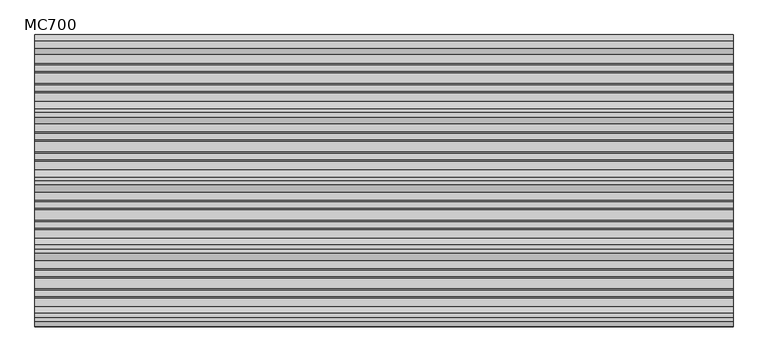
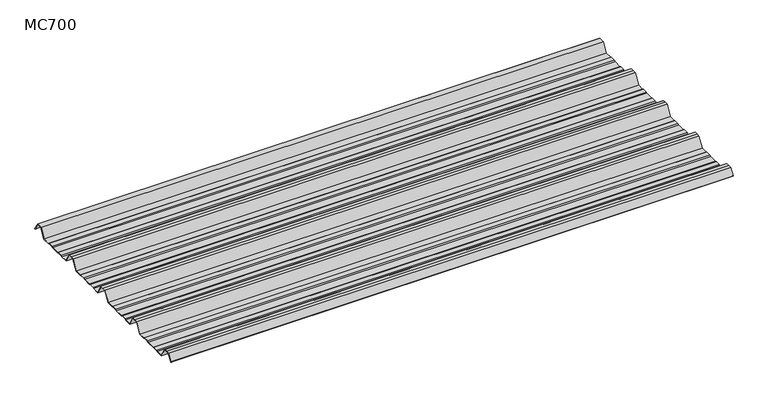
"""IFC4 building model written with IfcOpenShell, lengths in millimetres: beam geometry, 3D_Metalcraft MC700 : MC700."""

from ifc_helpers import new_model, si_unit, point, frame, frame_2d, origin, place, context, project, spatial, polyline, circle_curve, trimmed, segment, composite_curve, outline, extrude, source, transform, mapped, element, save


def mc700_c5d29af6(model_context):
    return source(origin(), model_context, "Body", "SweptSolid", [
        extrude(outline(composite_curve([segment(polyline([(-279.7790109, -25.7896475), (-284.1593286, -23.7494212), (-300.5873198, -23.7494212), (-303.802364, -25.7896475), (-326.5000016, -25.7896475), (-344.5745116, 5.2103525), (-355.0, 5.2103525), (-365.4254884, 5.2103525), (-383.4999984, -25.7896475), (-406.197636, -25.7896475), (-409.4126802, -23.7494212), (-425.8406714, -23.7494212), (-430.2209891, -25.7896475), (-457.2790109, -25.7896475), (-461.6593286, -23.7494212), (-478.0873198, -23.7494212), (-481.302364, -25.7896475), (-504.0000016, -25.7896475), (-522.0745116, 5.2103525), (-532.5, 5.2103525), (-542.9254884, 5.2103525), (-560.9999984, -25.7896475), (-583.697636, -25.7896475), (-586.9126802, -23.7494212), (-603.3406714, -23.7494212), (-607.7209891, -25.7896475), (-634.7790109, -25.7896475), (-639.1593286, -23.7494212), (-655.5873198, -23.7494212), (-658.802364, -25.7896475), (-681.5000016, -25.7896475), (-699.5745116, 5.2103525), (-710.0, 5.2103525), (-720.4254884, 5.2103525), (-732.728303, -15.8904825)]), True, "CONTINUOUS"), segment(trimmed(circle_curve(frame_2d((-733.160246, -15.6386387)), 0.5), [point((-732.728303, -15.8904825))], [point((-733.5921889, -15.3867949))], False, "CARTESIAN"), True, "CONTINUOUS"), segment(polyline([(-733.5921889, -15.3867949), (-721.0, 6.2103525), (-710.0, 6.2103525), (-699.0, 6.2103525), (-680.92549, -24.7896475), (-659.0928785, -24.7896475), (-655.8778343, -22.7494212), (-638.9378651, -22.7494212), (-634.5575473, -24.7896475), (-607.9424527, -24.7896475), (-603.5621349, -22.7494212), (-586.6221657, -22.7494212), (-583.4071215, -24.7896475), (-561.57451, -24.7896475), (-543.5, 6.2103525), (-532.5, 6.2103525), (-521.5, 6.2103525), (-503.42549, -24.7896475), (-481.5928785, -24.7896475), (-478.3778343, -22.7494212), (-461.4378651, -22.7494212), (-457.0575473, -24.7896475), (-430.4424527, -24.7896475), (-426.0621349, -22.7494212), (-409.1221657, -22.7494212), (-405.9071215, -24.7896475), (-384.07451, -24.7896475), (-366.0, 6.2103525), (-355.0, 6.2103525), (-344.0, 6.2103525), (-325.92549, -24.7896475), (-304.0928785, -24.7896475), (-300.8778343, -22.7494212), (-283.9378651, -22.7494212), (-279.5575473, -24.7896475), (-252.9424527, -24.7896475), (-248.5621349, -22.7494212), (-231.6221657, -22.7494212), (-228.4071215, -24.7896475), (-206.57451, -24.7896475), (-188.5, 6.2103525), (-177.5, 6.2103525), (-166.5, 6.2103525), (-148.42549, -24.7896475), (-126.5928785, -24.7896475), (-123.3778343, -22.7494212), (-106.4378651, -22.7494212), (-102.0575473, -24.7896475), (-75.4424527, -24.7896475), (-71.0621349, -22.7494212), (-54.1221657, -22.7494212), (-50.9071215, -24.7896475), (-26.7593894, -24.7896475), (-9.8509769, 4.2103525), (9.8509769, 4.2103525), (24.2964926, -20.5654776)]), True, "CONTINUOUS"), segment(trimmed(circle_curve(frame_2d((23.8645497, -20.8173214)), 0.5), [point((24.2964926, -20.5654776))], [point((23.4326067, -21.0691651))], False, "CARTESIAN"), True, "CONTINUOUS"), segment(polyline([(23.4326067, -21.0691651), (9.2764653, 3.2103525), (-9.2764653, 3.2103525), (-26.1848779, -25.7896475), (-51.197636, -25.7896475), (-54.4126802, -23.7494212), (-70.8406714, -23.7494212), (-75.2209891, -25.7896475), (-102.2790109, -25.7896475), (-106.6593286, -23.7494212), (-123.0873198, -23.7494212), (-126.302364, -25.7896475), (-149.0000016, -25.7896475), (-167.0745116, 5.2103525), (-177.5, 5.2103525), (-187.9254884, 5.2103525), (-205.9999984, -25.7896475), (-228.697636, -25.7896475), (-231.9126802, -23.7494212), (-248.3406714, -23.7494212), (-252.7209891, -25.7896475), (-279.7790109, -25.7896475)]), True, "CONTINUOUS")], self_intersect=False)), frame((-905.0, 0.0, 0.0), z_axis=(1.0, 0.0, 0.0), x_axis=(0.0, 1.0, 0.0)), (0.0, 0.0, 1.0), 1810.0),
    ])


if __name__ == "__main__":
    model = new_model("IFC4")
    model_context = context("Model", 3, world=origin())
    ifc_project = project(units=[si_unit("LENGTHUNIT", "METRE", prefix="MILLI")], contexts=[model_context])
    site = spatial("IfcSite", under=ifc_project)
    building = spatial("IfcBuilding", under=site)
    placement = place(None, origin())
    mc700_shape = mc700_c5d29af6(model_context)
    element("IfcBeam", 1, ObjectType="3D_Metalcraft MC700 : MC700", at=placement, inside=building, context=model_context, shape_type="MappedRepresentation", body=[
        mapped(mc700_shape, transform((0.0, 0.0, 0.0), x_axis=(1.0, 0.0, 0.0), y_axis=(0.0, 1.0, 0.0), z_axis=(0.0, 0.0, 1.0))),
    ])
    save(model, "model.ifc")
